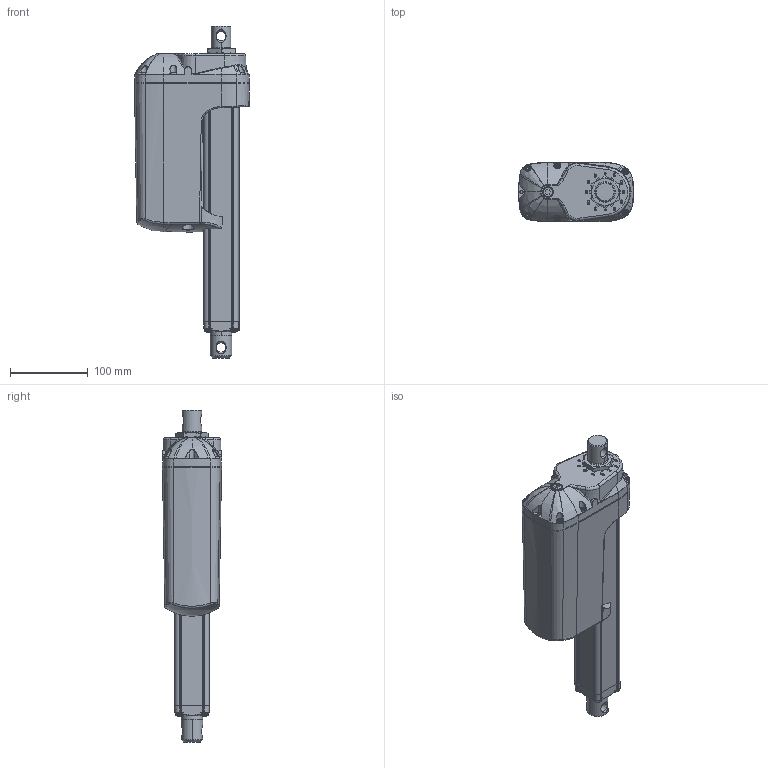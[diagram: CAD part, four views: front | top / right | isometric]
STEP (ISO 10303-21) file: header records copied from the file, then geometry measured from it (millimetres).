
FILE_DESCRIPTION((''),'2;1');
FILE_NAME('0362125_ASM','2024-09-04T11:33:45',('sota'),(''),'CREO PARAMETRIC BY PTC INC, 2022024','CREO PARAMETRIC BY PTC INC, 2022024','');
FILE_SCHEMA(('AUTOMOTIVE_DESIGN { 1 0 10303 214 1 1 1 1 }'));
Products named in the file (5): LA36-VIB-SHELL-0361437-H; LA36-SHELL-3420120-OT; SHELL-0361109; LA36-SHELL-0361714-BF; 0362125_ASM
Assembly tree (4 placements, depth 2):
  0362125_ASM
    LA36-VIB-SHELL-0361437-H
    LA36-SHELL-3420120-OT
    SHELL-0361109
    LA36-SHELL-0361714-BF
Bounding box: 147.73 x 76 x 426.5 mm (x, y, z)
Volume: 2369345.6 mm3; surface area: 208726.3 mm2
Topology: 4 solids, 4 shells, 2901 faces, 7832 edges, 5006 vertices
Faces by surface type: plane 1648, cylinder 375, bspline 358, extrusion 286, cone 121, torus 72, sphere 41
Entity records: 118876 total; most frequent: CARTESIAN_POINT 51018, ORIENTED_EDGE 15614, DIRECTION 11260, EDGE_CURVE 7807, VECTOR 5016, VERTEX_POINT 5006, LINE 4730, AXIS2_PLACEMENT_3D 3122
